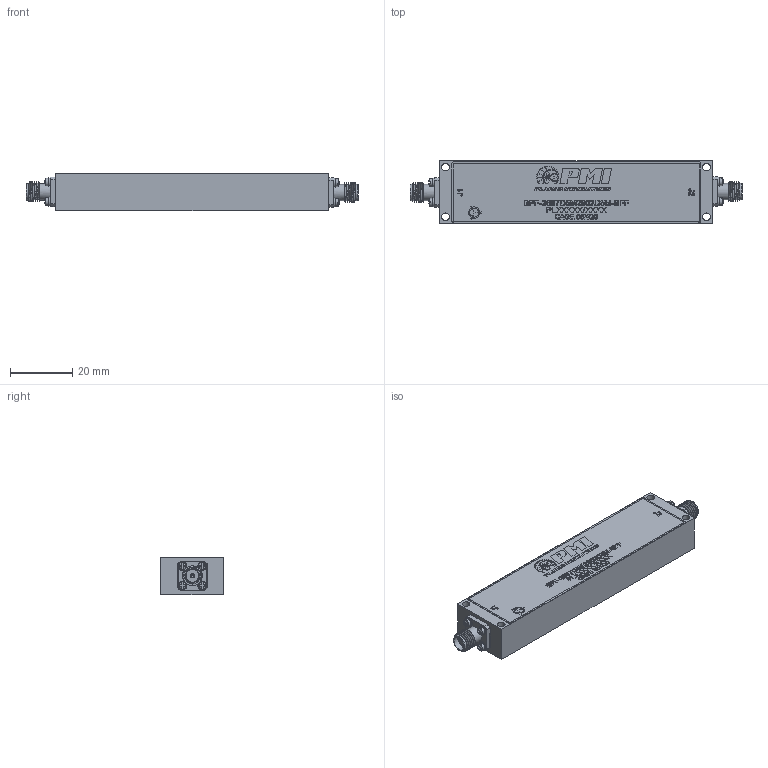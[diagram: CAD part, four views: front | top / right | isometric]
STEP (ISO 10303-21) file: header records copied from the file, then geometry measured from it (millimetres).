
FILE_DESCRIPTION (( 'STEP AP214' ), '1' );
FILE_NAME ('BPF-2697D5M2902D5M-SFF_IC.STEP', '2026-09-16T12:04:11', ( '' ), ( '' ), 'SwSTEP 2.0', 'SolidWorks 2025', '' );
FILE_SCHEMA (( 'AUTOMOTIVE_DESIGN' ));
Length unit declared in the file: millimetre
Products named in the file (1): BPF-2697D5M2902D5M-SFF_IC
Bounding box: 106.93 x 20.07 x 12.06 mm (x, y, z)
Volume: 21747.4 mm3; surface area: 11161.1 mm2
Topology: 20 solids, 20 shells, 480 faces, 1747 edges, 1441 vertices
Faces by surface type: plane 298, cylinder 104, torus 46, sphere 16, cone 12, bspline 4
Full cylindrical faces by diameter (mm): 0.381 x2, 0.457 x2, 0.711 x2, 1.016 x2, 1.27 x2, 1.524 x8, 1.702 x8, 2.438 x8, 2.464 x4, 3.302 x2, 4.191 x4, 4.597 x2, 5.283 x4
Entity records: 27062 total; most frequent: CARTESIAN_POINT 8835, ORIENTED_EDGE 3250, DIRECTION 2668, EDGE_CURVE 1625, VERTEX_POINT 1427, VECTOR 892, LINE 892, AXIS2_PLACEMENT_3D 888
